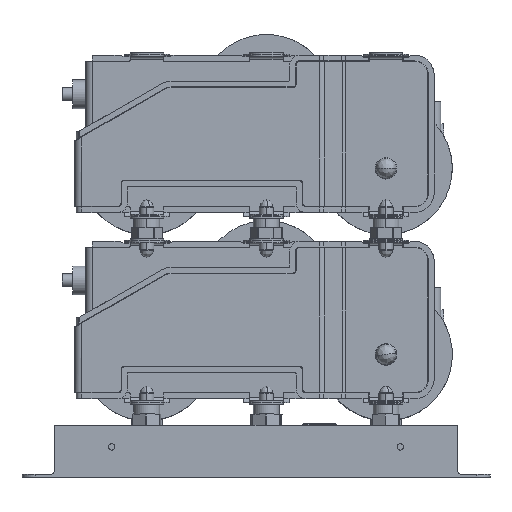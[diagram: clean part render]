
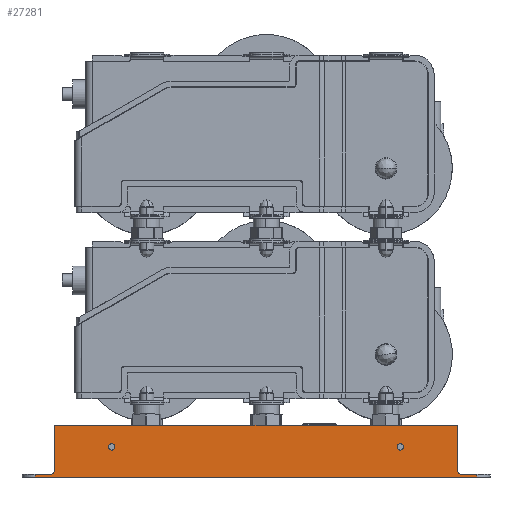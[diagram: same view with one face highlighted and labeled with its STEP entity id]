
A CAD part, top view. The second image highlights one B-rep face of the part: STEP entity #27281.
In plain terms, the highlighted planar face has unit normal (0, 0, 1).
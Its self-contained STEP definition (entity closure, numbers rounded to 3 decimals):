
#118 = DIRECTION ( 'NONE',  ( 0., 0., -1. ) ) ;
#1412 = CARTESIAN_POINT ( 'NONE',  ( -10., 3., 0. ) ) ;
#1783 = DIRECTION ( 'NONE',  ( -1., 0., 0. ) ) ;
#1824 = VECTOR ( 'NONE', #1783, 1000. ) ;
#1831 = CARTESIAN_POINT ( 'NONE',  ( -10., -2., 0. ) ) ;
#2850 = VERTEX_POINT ( 'NONE', #56017 ) ;
#3096 = VERTEX_POINT ( 'NONE', #83384 ) ;
#4213 = EDGE_CURVE ( 'NONE', #9436, #31594, #21324, .T. ) ;
#5643 = CARTESIAN_POINT ( 'NONE',  ( -293.5, 21.2, 0. ) ) ;
#5889 = DIRECTION ( 'NONE',  ( 0., 0., 1. ) ) ;
#7020 = DIRECTION ( 'NONE',  ( 1., 0., 0. ) ) ;
#9436 = VERTEX_POINT ( 'NONE', #61726 ) ;
#9958 = DIRECTION ( 'NONE',  ( 0., 0., 1. ) ) ;
#13659 = VERTEX_POINT ( 'NONE', #1831 ) ;
#14636 = VERTEX_POINT ( 'NONE', #5643 ) ;
#14677 = DIRECTION ( 'NONE',  ( 1., 0., 0. ) ) ;
#16286 = EDGE_LOOP ( 'NONE', ( #85881, #100345 ) ) ;
#16488 = ORIENTED_EDGE ( 'NONE', *, *, #39570, .T. ) ;
#17612 = ORIENTED_EDGE ( 'NONE', *, *, #28986, .T. ) ;
#18047 = CARTESIAN_POINT ( 'NONE',  ( -288.5, 21.2, 0. ) ) ;
#19204 = AXIS2_PLACEMENT_3D ( 'NONE', #96803, #27470, #75031 ) ;
#19536 = VERTEX_POINT ( 'NONE', #67565 ) ;
#20446 = VECTOR ( 'NONE', #84975, 1000. ) ;
#20572 = CARTESIAN_POINT ( 'NONE',  ( -335., 38., 0. ) ) ;
#21324 = LINE ( 'NONE', #84411, #48087 ) ;
#21558 = EDGE_CURVE ( 'NONE', #14636, #43252, #79608, .T. ) ;
#21589 = LINE ( 'NONE', #20572, #39071 ) ;
#24301 = EDGE_CURVE ( 'NONE', #13659, #41474, #100507, .T. ) ;
#24927 = VERTEX_POINT ( 'NONE', #36516 ) ;
#25538 = DIRECTION ( 'NONE',  ( -1., 0., 0. ) ) ;
#25725 = LINE ( 'NONE', #1412, #58601 ) ;
#25999 = AXIS2_PLACEMENT_3D ( 'NONE', #55178, #38132, #93995 ) ;
#26051 = CARTESIAN_POINT ( 'NONE',  ( -335., 0., 0. ) ) ;
#26778 = EDGE_CURVE ( 'NONE', #43252, #14636, #39128, .T. ) ;
#27281 = ADVANCED_FACE ( 'NONE', ( #100730, #60927, #101235 ), #92452, .T. ) ;
#27470 = DIRECTION ( 'NONE',  ( 0., 0., -1. ) ) ;
#28387 = DIRECTION ( 'NONE',  ( 1., 0., 0. ) ) ;
#28986 = EDGE_CURVE ( 'NONE', #83472, #19536, #48692, .T. ) ;
#31084 = EDGE_LOOP ( 'NONE', ( #79703, #54228 ) ) ;
#31594 = VERTEX_POINT ( 'NONE', #84269 ) ;
#32969 = DIRECTION ( 'NONE',  ( 0., 1., 0. ) ) ;
#34211 = DIRECTION ( 'NONE',  ( 0., -1., 0. ) ) ;
#34623 = VECTOR ( 'NONE', #101493, 1000. ) ;
#34702 = CARTESIAN_POINT ( 'NONE',  ( -350., 3., 0. ) ) ;
#36516 = CARTESIAN_POINT ( 'NONE',  ( -338., 0., 0. ) ) ;
#37151 = EDGE_CURVE ( 'NONE', #31594, #24927, #81987, .T. ) ;
#37775 = CARTESIAN_POINT ( 'NONE',  ( -69., 21.2, 0. ) ) ;
#37847 = CARTESIAN_POINT ( 'NONE',  ( -350., 0., 0. ) ) ;
#38132 = DIRECTION ( 'NONE',  ( 0., 0., 1. ) ) ;
#38900 = CARTESIAN_POINT ( 'NONE',  ( -25., 0., 0. ) ) ;
#38906 = VECTOR ( 'NONE', #34211, 1000. ) ;
#39071 = VECTOR ( 'NONE', #75886, 1000. ) ;
#39128 = CIRCLE ( 'NONE', #47384, 2.5 ) ;
#39213 = VERTEX_POINT ( 'NONE', #98939 ) ;
#39570 = EDGE_CURVE ( 'NONE', #49103, #41474, #42465, .T. ) ;
#39851 = CARTESIAN_POINT ( 'NONE',  ( -25., 3., 0. ) ) ;
#41474 = VERTEX_POINT ( 'NONE', #51509 ) ;
#42465 = LINE ( 'NONE', #34702, #38906 ) ;
#43252 = VERTEX_POINT ( 'NONE', #18047 ) ;
#44154 = ORIENTED_EDGE ( 'NONE', *, *, #37151, .T. ) ;
#45169 = EDGE_CURVE ( 'NONE', #83517, #2850, #58646, .T. ) ;
#46303 = CARTESIAN_POINT ( 'NONE',  ( -291., 21.2, 0. ) ) ;
#47384 = AXIS2_PLACEMENT_3D ( 'NONE', #46303, #9958, #7020 ) ;
#48087 = VECTOR ( 'NONE', #52335, 1000. ) ;
#48569 = ORIENTED_EDGE ( 'NONE', *, *, #87224, .F. ) ;
#48622 = CARTESIAN_POINT ( 'NONE',  ( -10., 0., 0. ) ) ;
#48692 = LINE ( 'NONE', #38900, #34623 ) ;
#49103 = VERTEX_POINT ( 'NONE', #37847 ) ;
#49636 = CIRCLE ( 'NONE', #97549, 2.5 ) ;
#51509 = CARTESIAN_POINT ( 'NONE',  ( -350., -2., 0. ) ) ;
#51724 = DIRECTION ( 'NONE',  ( 1., 0., 0. ) ) ;
#52335 = DIRECTION ( 'NONE',  ( 0., -1., 0. ) ) ;
#54228 = ORIENTED_EDGE ( 'NONE', *, *, #21558, .F. ) ;
#54944 = DIRECTION ( 'NONE',  ( 1., 0., 0. ) ) ;
#55178 = CARTESIAN_POINT ( 'NONE',  ( -330., 36., 0. ) ) ;
#56017 = CARTESIAN_POINT ( 'NONE',  ( -22., 0., 0. ) ) ;
#56635 = AXIS2_PLACEMENT_3D ( 'NONE', #60953, #84215, #28387 ) ;
#58601 = VECTOR ( 'NONE', #32969, 1000. ) ;
#58646 = LINE ( 'NONE', #73654, #1824 ) ;
#60927 = FACE_BOUND ( 'NONE', #31084, .T. ) ;
#60953 = CARTESIAN_POINT ( 'NONE',  ( -69., 21.2, 0. ) ) ;
#61726 = CARTESIAN_POINT ( 'NONE',  ( -335., 38., 0. ) ) ;
#61854 = ORIENTED_EDGE ( 'NONE', *, *, #4213, .T. ) ;
#62449 = ORIENTED_EDGE ( 'NONE', *, *, #24301, .F. ) ;
#65352 = LINE ( 'NONE', #26051, #77398 ) ;
#65850 = CIRCLE ( 'NONE', #88974, 3. ) ;
#67565 = CARTESIAN_POINT ( 'NONE',  ( -25., 38., 0. ) ) ;
#67965 = EDGE_CURVE ( 'NONE', #24927, #49103, #65352, .T. ) ;
#70776 = EDGE_CURVE ( 'NONE', #39213, #3096, #49636, .T. ) ;
#72388 = EDGE_CURVE ( 'NONE', #3096, #39213, #81385, .T. ) ;
#73654 = CARTESIAN_POINT ( 'NONE',  ( 0., 0., 0. ) ) ;
#74334 = ORIENTED_EDGE ( 'NONE', *, *, #45169, .T. ) ;
#74423 = AXIS2_PLACEMENT_3D ( 'NONE', #92273, #5889, #14677 ) ;
#75031 = DIRECTION ( 'NONE',  ( 1., 0., 0. ) ) ;
#75886 = DIRECTION ( 'NONE',  ( 1., 0., 0. ) ) ;
#76695 = CARTESIAN_POINT ( 'NONE',  ( -330., -2., 0. ) ) ;
#77398 = VECTOR ( 'NONE', #25538, 1000. ) ;
#79608 = CIRCLE ( 'NONE', #74423, 2.5 ) ;
#79703 = ORIENTED_EDGE ( 'NONE', *, *, #26778, .F. ) ;
#80797 = CARTESIAN_POINT ( 'NONE',  ( -22., 3., 0. ) ) ;
#81385 = CIRCLE ( 'NONE', #56635, 2.5 ) ;
#81987 = CIRCLE ( 'NONE', #19204, 3. ) ;
#83384 = CARTESIAN_POINT ( 'NONE',  ( -71.5, 21.2, 0. ) ) ;
#83472 = VERTEX_POINT ( 'NONE', #39851 ) ;
#83517 = VERTEX_POINT ( 'NONE', #48622 ) ;
#84215 = DIRECTION ( 'NONE',  ( 0., 0., 1. ) ) ;
#84269 = CARTESIAN_POINT ( 'NONE',  ( -335., 3., 0. ) ) ;
#84411 = CARTESIAN_POINT ( 'NONE',  ( -335., 38., 0. ) ) ;
#84975 = DIRECTION ( 'NONE',  ( -1., 0., 0. ) ) ;
#85881 = ORIENTED_EDGE ( 'NONE', *, *, #70776, .F. ) ;
#87224 = EDGE_CURVE ( 'NONE', #9436, #19536, #21589, .T. ) ;
#88512 = ORIENTED_EDGE ( 'NONE', *, *, #89302, .T. ) ;
#88974 = AXIS2_PLACEMENT_3D ( 'NONE', #80797, #118, #54944 ) ;
#89302 = EDGE_CURVE ( 'NONE', #2850, #83472, #65850, .T. ) ;
#91560 = DIRECTION ( 'NONE',  ( 0., 0., 1. ) ) ;
#92075 = ORIENTED_EDGE ( 'NONE', *, *, #67965, .T. ) ;
#92273 = CARTESIAN_POINT ( 'NONE',  ( -291., 21.2, 0. ) ) ;
#92452 = PLANE ( 'NONE',  #25999 ) ;
#93995 = DIRECTION ( 'NONE',  ( 0., -1., 0. ) ) ;
#96803 = CARTESIAN_POINT ( 'NONE',  ( -338., 3., 0. ) ) ;
#97006 = ORIENTED_EDGE ( 'NONE', *, *, #99266, .T. ) ;
#97549 = AXIS2_PLACEMENT_3D ( 'NONE', #37775, #91560, #51724 ) ;
#98939 = CARTESIAN_POINT ( 'NONE',  ( -66.5, 21.2, 0. ) ) ;
#99266 = EDGE_CURVE ( 'NONE', #13659, #83517, #25725, .T. ) ;
#100345 = ORIENTED_EDGE ( 'NONE', *, *, #72388, .F. ) ;
#100507 = LINE ( 'NONE', #76695, #20446 ) ;
#100730 = FACE_OUTER_BOUND ( 'NONE', #100759, .T. ) ;
#100759 = EDGE_LOOP ( 'NONE', ( #44154, #92075, #16488, #62449, #97006, #74334, #88512, #17612, #48569, #61854 ) ) ;
#101235 = FACE_BOUND ( 'NONE', #16286, .T. ) ;
#101493 = DIRECTION ( 'NONE',  ( 0., 1., 0. ) ) ;
